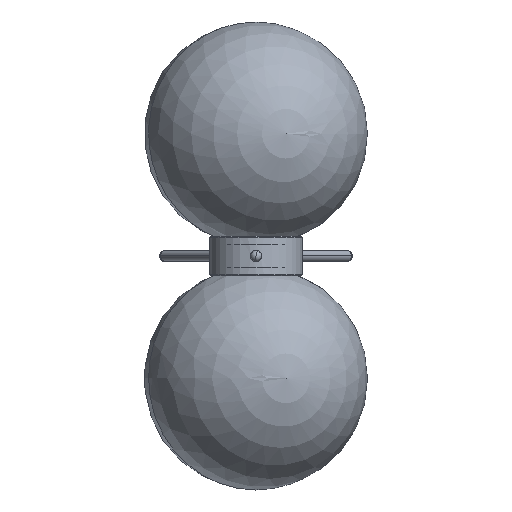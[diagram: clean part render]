
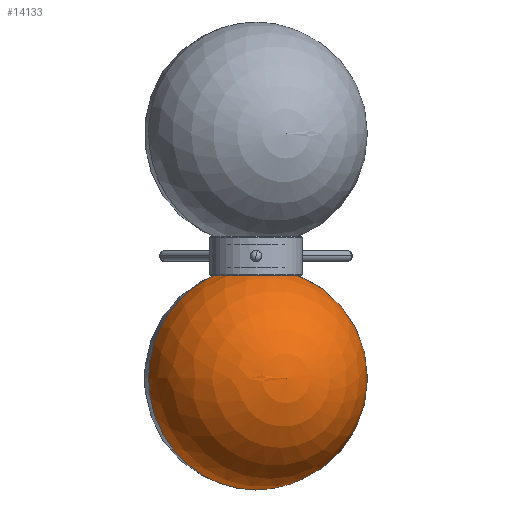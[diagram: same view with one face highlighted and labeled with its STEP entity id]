
A CAD part, front view. The second image highlights one B-rep face of the part: STEP entity #14133.
In plain terms, the highlighted spherical face has radius 60 mm.
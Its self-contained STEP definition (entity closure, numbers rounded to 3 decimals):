
#79 = EDGE_LOOP ( 'NONE', ( #411, #16241, #25481 ) ) ;
#411 = ORIENTED_EDGE ( 'NONE', *, *, #3364, .F. ) ;
#1994 = DIRECTION ( 'NONE',  ( 0., -1., 0. ) ) ;
#2758 = SPHERICAL_SURFACE ( 'NONE', #9924, 60. ) ;
#3364 = EDGE_CURVE ( 'NONE', #16649, #22668, #6294, .T. ) ;
#4551 = VERTEX_POINT ( 'NONE', #21613 ) ;
#6294 = CIRCLE ( 'NONE', #14198, 60. ) ;
#7033 = CIRCLE ( 'NONE', #22786, 60. ) ;
#7710 = CARTESIAN_POINT ( 'NONE',  ( 0., 0., -57.391 ) ) ;
#7963 = CARTESIAN_POINT ( 'NONE',  ( 0., 0., -117.391 ) ) ;
#8867 = DIRECTION ( 'NONE',  ( 0., 0., -1. ) ) ;
#9541 = EDGE_CURVE ( 'NONE', #4551, #22668, #7033, .T. ) ;
#9924 = AXIS2_PLACEMENT_3D ( 'NONE', #16915, #13016, #10424 ) ;
#10424 = DIRECTION ( 'NONE',  ( -1., 0., 0. ) ) ;
#10539 = DIRECTION ( 'NONE',  ( -1., 0., 0. ) ) ;
#13016 = DIRECTION ( 'NONE',  ( 0., 1., 0. ) ) ;
#14133 = ADVANCED_FACE ( 'NONE', ( #24690 ), #2758, .T. ) ;
#14198 = AXIS2_PLACEMENT_3D ( 'NONE', #19282, #23294, #17331 ) ;
#14839 = CARTESIAN_POINT ( 'NONE',  ( 0., 0., -0.237 ) ) ;
#16241 = ORIENTED_EDGE ( 'NONE', *, *, #16651, .T. ) ;
#16617 = CIRCLE ( 'NONE', #21165, 18.26 ) ;
#16649 = VERTEX_POINT ( 'NONE', #22490 ) ;
#16651 = EDGE_CURVE ( 'NONE', #16649, #4551, #16617, .T. ) ;
#16915 = CARTESIAN_POINT ( 'NONE',  ( 0., 0., -57.391 ) ) ;
#17331 = DIRECTION ( 'NONE',  ( -1., 0., 0. ) ) ;
#19282 = CARTESIAN_POINT ( 'NONE',  ( 0., 0., -57.391 ) ) ;
#19801 = DIRECTION ( 'NONE',  ( 0., 0., -1. ) ) ;
#21165 = AXIS2_PLACEMENT_3D ( 'NONE', #14839, #8867, #10539 ) ;
#21613 = CARTESIAN_POINT ( 'NONE',  ( -18.26, 0., -0.237 ) ) ;
#22490 = CARTESIAN_POINT ( 'NONE',  ( 18.26, 0., -0.237 ) ) ;
#22668 = VERTEX_POINT ( 'NONE', #7963 ) ;
#22786 = AXIS2_PLACEMENT_3D ( 'NONE', #7710, #1994, #19801 ) ;
#23294 = DIRECTION ( 'NONE',  ( 0., 1., 0. ) ) ;
#24690 = FACE_OUTER_BOUND ( 'NONE', #79, .T. ) ;
#25481 = ORIENTED_EDGE ( 'NONE', *, *, #9541, .T. ) ;
